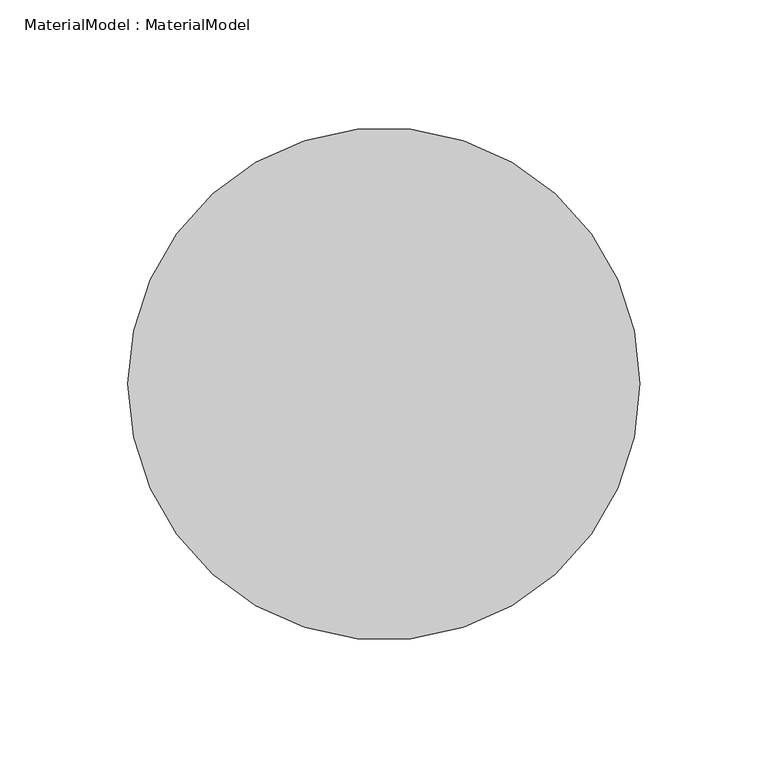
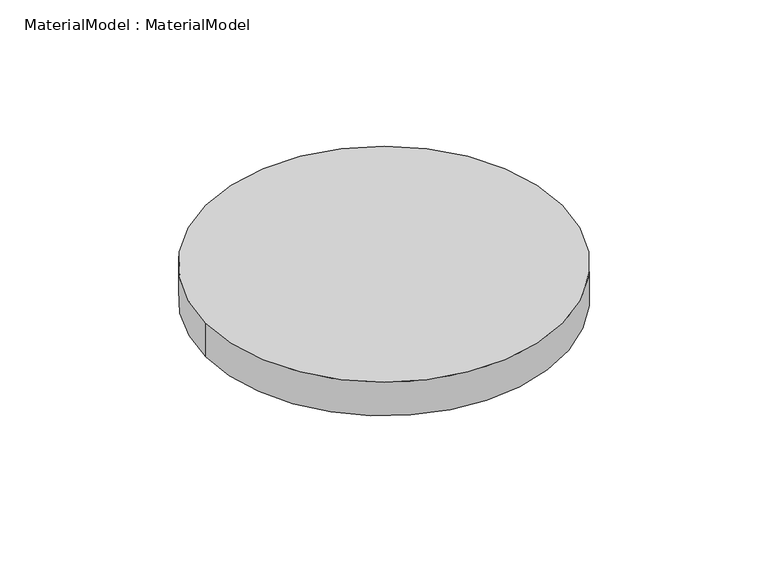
"""IFC4 building model written with IfcOpenShell, lengths in millimetres: proxy geometry, MaterialModel : MaterialModel."""

from ifc_helpers import new_model, si_unit, point, origin, origin_with_axes, origin_2d, place, context, project, spatial, circle_curve, trimmed, segment, composite_curve, outline, extrude, source, transform, mapped, element, save


def materialmodel_materialmodel_ac00f72a(model_context):
    return source(origin(), model_context, "Body", "SweptSolid", [
        extrude(outline(composite_curve([segment(trimmed(circle_curve(origin_2d(), 100.0), [point((-100.0, 0.0))], [point((100.0, 0.0))], False, "CARTESIAN"), True, "CONTINUOUS"), segment(trimmed(circle_curve(origin_2d(), 100.0), [point((100.0, 0.0))], [point((-100.0, 0.0))], False, "CARTESIAN"), True, "CONTINUOUS")], self_intersect=False)), origin_with_axes(), (0.0, 0.0, 1.0), 20.0),
    ])


if __name__ == "__main__":
    model = new_model("IFC4")
    model_context = context("Model", 3, world=origin())
    ifc_project = project(units=[si_unit("LENGTHUNIT", "METRE", prefix="MILLI")], contexts=[model_context])
    site = spatial("IfcSite", under=ifc_project)
    building = spatial("IfcBuilding", under=site)
    placement = place(None, origin())
    materialmodel_materialmodel_shape = materialmodel_materialmodel_ac00f72a(model_context)
    element("IfcBuildingElementProxy", 1, Name="MaterialModel : MaterialModel", ObjectType="MaterialModel : MaterialModel", at=placement, inside=building, context=model_context, shape_type="MappedRepresentation", body=[
        mapped(materialmodel_materialmodel_shape, transform((0.0, 0.0, 0.0), x_axis=(1.0, 0.0, 0.0), y_axis=(0.0, 1.0, 0.0), z_axis=(0.0, 0.0, 1.0))),
    ])
    save(model, "model.ifc")
